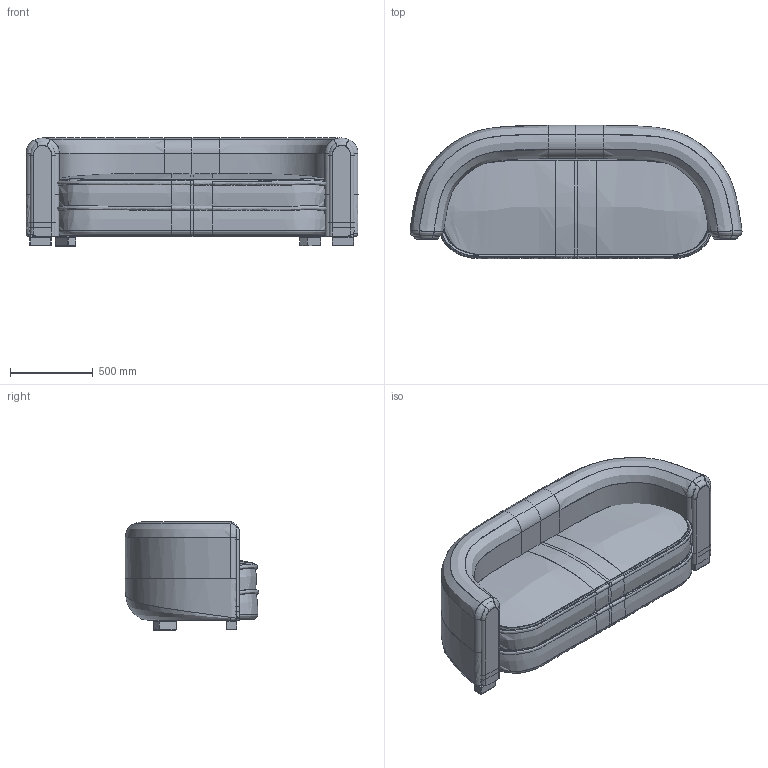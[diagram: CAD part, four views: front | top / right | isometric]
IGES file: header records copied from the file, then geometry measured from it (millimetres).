
Global section: file name: C:\Users\market02\Desktop\RYAN\Buenos aires 170 ET 200\exportation\FBUENCA200_CANAPE_SOFA_BUENOS AIRES\FBUENCA200_CANAPE_SOFA_BUENOS AIRES.igs; native system: Rhinoceros ( Dec 14 2021 ); preprocessor: Trout Lake IGES 012 Dec 14 2021; date: 220223.092503; units: centimetre
Bounding box: 2001.25 x 803.16 x 651.29 mm (x, y, z)
Surface area: 9013623.6 mm2 (no closed solid volume)
Topology: 0 solids, 0 shells, 210 faces, 3826 edges, 3810 vertices
Faces by surface type: bspline 210
